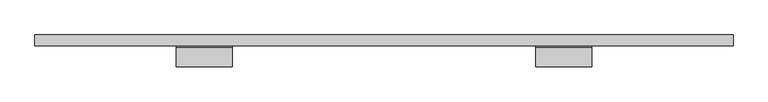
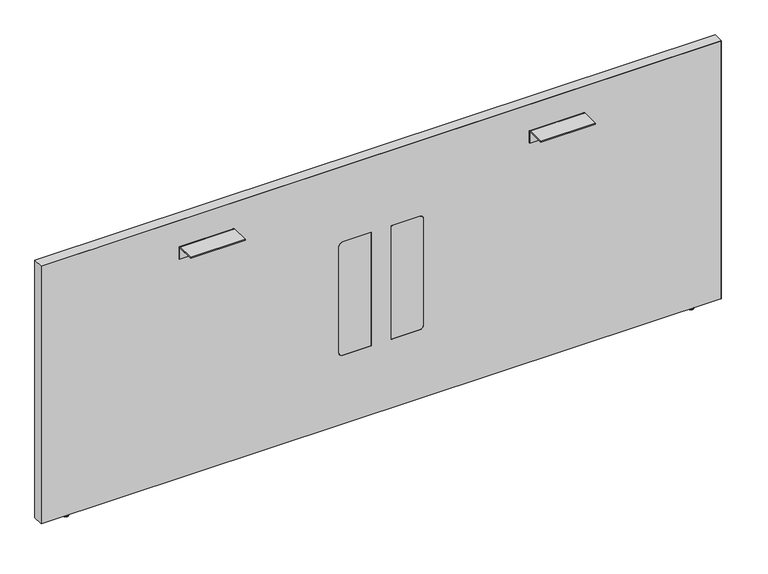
"""IFC4 building model written with IfcOpenShell, lengths in millimetres: furniture geometry, Steelcase - Answer Solution - Boundary Screen - Straight - Spanning : 30H x 75W."""

from ifc_helpers import new_model, si_unit, point, frame, frame_2d, origin, place, context, project, spatial, polyline, circle_curve, ellipse_curve, trimmed, segment, composite_curve, outline, extrude, source, transform, mapped, element, save
from ifc_brep_helpers import plane_surface, cylinder_surface, revolved_surface, advanced_brep


def furniture_ce9390e5(model_context):
    return source(origin(), model_context, "Body", "SolidModel", [
        advanced_brep(
        [(-645.4902705, -14.8449166, 9.9059849), (-645.4902705, -5.9309607, 9.9059849), (-645.4902705, -23.7588726, 9.9059849), (-645.4902705, -5.9309607, 2.9673238), (-645.4902705, -23.7588726, 2.9673238), (-645.4902705, -6.8982978, 2.9673238), (-645.4902705, -22.7915354, 2.9673238), (-645.4902705, -6.8982978, 1.6569081), (-645.4902705, -22.7915354, 1.6569081), (-645.4902705, -8.5552059, 0.0), (-645.4902705, -21.1346274, 0.0), (-645.4902705, -14.8449166, 0.0)],
        [
            (0, 1),
            (1, 2, circle_curve(frame((-645.4902705, -14.8449166, 9.9059849), z_axis=(0.0, 0.0, 1.0), x_axis=(0.0, 1.0, 0.0)), 8.913956)),
            (2, 0),
            (2, 1, circle_curve(frame((-645.4902705, -14.8449166, 9.9059849), z_axis=(0.0, 0.0, 1.0), x_axis=(0.0, 1.0, 0.0)), 8.913956)),
            (1, 3),
            (3, 4, circle_curve(frame((-645.4902705, -14.8449166, 2.9673238), z_axis=(0.0, 0.0, 1.0), x_axis=(0.0, 1.0, 0.0)), 8.913956)),
            (4, 2),
            (4, 3, circle_curve(frame((-645.4902705, -14.8449166, 2.9673238), z_axis=(0.0, 0.0, 1.0), x_axis=(0.0, 1.0, 0.0)), 8.913956)),
            (3, 5),
            (5, 6, circle_curve(frame((-645.4902705, -14.8449166, 2.9673238), z_axis=(0.0, 0.0, 1.0), x_axis=(0.0, 1.0, 0.0)), 7.9466188)),
            (6, 4),
            (6, 5, circle_curve(frame((-645.4902705, -14.8449166, 2.9673238), z_axis=(0.0, 0.0, 1.0), x_axis=(0.0, 1.0, 0.0)), 7.9466188)),
            (5, 7),
            (7, 8, circle_curve(frame((-645.4902705, -14.8449166, 1.6569081), z_axis=(0.0, 0.0, 1.0), x_axis=(0.0, 1.0, 0.0)), 7.9466188)),
            (8, 6),
            (8, 7, circle_curve(frame((-645.4902705, -14.8449166, 1.6569081), z_axis=(0.0, 0.0, 1.0), x_axis=(0.0, 1.0, 0.0)), 7.9466188)),
            (7, 9, circle_curve(frame((-645.4902705, -8.5552059, 1.6569081), z_axis=(-1.0, 0.0, 0.0), x_axis=(0.0, 1.0, 0.0)), 1.6569081)),
            (9, 10, circle_curve(frame((-645.4902705, -14.8449166, 0.0), z_axis=(0.0, 0.0, 1.0), x_axis=(0.0, 1.0, 0.0)), 6.2897107)),
            (10, 8, circle_curve(frame((-645.4902705, -21.1346274, 1.6569081), z_axis=(-1.0, 0.0, 0.0), x_axis=(0.0, -1.0, 0.0)), 1.6569081)),
            (10, 9, circle_curve(frame((-645.4902705, -14.8449166, 0.0), z_axis=(0.0, 0.0, 1.0), x_axis=(0.0, 1.0, 0.0)), 6.2897107)),
            (9, 11),
            (11, 10),
        ],
        [
            plane_surface(frame((-645.4902705, -14.8449166, 9.9059849), z_axis=(0.0, 0.0, 1.0), x_axis=(0.0, 1.0, 0.0))),
            cylinder_surface(frame((-645.4902705, -14.8449166, 9.9059849), z_axis=(0.0, 0.0, 1.0), x_axis=(0.0, 1.0, 0.0)), 8.913956),
            plane_surface(frame((-645.4902705, -14.8449166, 2.9673238), z_axis=(0.0, 0.0, -1.0), x_axis=(0.0, 1.0, 0.0))),
            cylinder_surface(frame((-645.4902705, -14.8449166, 9.9059849), z_axis=(0.0, 0.0, 1.0), x_axis=(0.0, 1.0, 0.0)), 7.9466188),
            revolved_surface(trimmed(ellipse_curve(frame((-645.4902705, -8.5552059, 1.6569081), z_axis=(1.0, 0.0, 0.0), x_axis=(0.0, 1.0, 0.0)), 1.6569081, 1.6569081), [point((-645.4902705, -8.5552059, 0.0))], [point((-645.4902705, -6.8982978, 1.6569081))], True, "CARTESIAN"), (-645.4902705, -14.8449166, 9.9059849), (0.0, 0.0, 1.0)),
            plane_surface(frame((-645.4902705, -14.8449166, 0.0), z_axis=(0.0, 0.0, -1.0), x_axis=(0.0, 1.0, 0.0))),
        ],
        [
            (0, [[1, 2, 3]]),
            (0, [[-3, 4, -1]]),
            (1, [[-2, 5, 6, 7]]),
            (1, [[-4, -7, 8, -5]]),
            (2, [[-6, 9, 10, 11]]),
            (2, [[-8, -11, 12, -9]]),
            (3, [[-10, 13, 14, 15]]),
            (3, [[-12, -15, 16, -13]]),
            (4, [[-14, 17, 18, 19]]),
            (4, [[-16, -19, 20, -17]]),
            (5, [[-18, 21, 22]]),
            (5, [[-20, -22, -21]]),
        ],
    ),
        extrude(outline(composite_curve([segment(polyline([(-86.8398151, 696.4680019), (-86.8398151, 698.5), (-34.9450855, 698.5)]), True, "CONTINUOUS"), segment(trimmed(circle_curve(frame_2d((-34.9450855, 693.2447477)), 5.2552523), [point((-34.9450855, 698.5))], [point((-29.6898332, 693.2447477))], False, "CARTESIAN"), True, "CONTINUOUS"), segment(polyline([(-29.6898332, 693.2447477), (-29.6898332, 660.4), (-31.7218162, 660.4), (-31.7218162, 693.0058743)]), True, "CONTINUOUS"), segment(trimmed(circle_curve(frame_2d((-35.1839438, 693.0058743)), 3.4621276), [point((-31.7218162, 693.0058743))], [point((-35.1839438, 696.4680019))], True, "CARTESIAN"), True, "CONTINUOUS"), segment(polyline([(-35.1839438, 696.4680019), (-86.8398151, 696.4680019)]), True, "CONTINUOUS")], self_intersect=False)), frame((644.0282189, 0.0, 0.0), z_axis=(1.0, 0.0, 0.0), x_axis=(0.0, 1.0, 0.0)), (0.0, 0.0, 1.0), 152.4000969),
        extrude(outline(composite_curve([segment(polyline([(-86.8398151, 696.4680019), (-86.8398151, 698.5), (-34.9450855, 698.5)]), True, "CONTINUOUS"), segment(trimmed(circle_curve(frame_2d((-34.9450855, 693.2447477)), 5.2552523), [point((-34.9450855, 698.5))], [point((-29.6898332, 693.2447477))], False, "CARTESIAN"), True, "CONTINUOUS"), segment(polyline([(-29.6898332, 693.2447477), (-29.6898332, 660.4), (-31.7218162, 660.4), (-31.7218162, 693.0058743)]), True, "CONTINUOUS"), segment(trimmed(circle_curve(frame_2d((-35.1839438, 693.0058743)), 3.4621276), [point((-31.7218162, 693.0058743))], [point((-35.1839438, 696.4680019))], True, "CARTESIAN"), True, "CONTINUOUS"), segment(polyline([(-35.1839438, 696.4680019), (-86.8398151, 696.4680019)]), True, "CONTINUOUS")], self_intersect=False)), frame((-336.7884581, 0.0, 0.0), z_axis=(1.0, 0.0, 0.0), x_axis=(0.0, 1.0, 0.0)), (0.0, 0.0, 1.0), 152.4000969),
        advanced_brep(
        [(1105.1286488, -23.7588726, 9.9059849), (1105.1286488, -5.9309607, 9.9059849), (1105.1286488, -14.8449166, 9.9059849), (1105.1286488, -23.7588726, 2.9673238), (1105.1286488, -5.9309607, 2.9673238), (1105.1286488, -22.7915354, 2.9673238), (1105.1286488, -6.8982978, 2.9673238), (1105.1286488, -22.7915354, 1.6569081), (1105.1286488, -6.8982978, 1.6569081), (1105.1286488, -21.1346274, 0.0), (1105.1286488, -8.5552059, 0.0), (1105.1286488, -14.8449166, 0.0)],
        [
            (0, 1, circle_curve(frame((1105.1286488, -14.8449166, 9.9059849), z_axis=(0.0, 0.0, 1.0), x_axis=(0.0, 1.0, 0.0)), 8.913956)),
            (1, 2),
            (2, 0),
            (1, 0, circle_curve(frame((1105.1286488, -14.8449166, 9.9059849), z_axis=(0.0, 0.0, 1.0), x_axis=(0.0, 1.0, 0.0)), 8.913956)),
            (3, 4, circle_curve(frame((1105.1286488, -14.8449166, 2.9673238), z_axis=(0.0, 0.0, 1.0), x_axis=(0.0, 1.0, 0.0)), 8.913956)),
            (4, 1),
            (0, 3),
            (4, 3, circle_curve(frame((1105.1286488, -14.8449166, 2.9673238), z_axis=(0.0, 0.0, 1.0), x_axis=(0.0, 1.0, 0.0)), 8.913956)),
            (5, 6, circle_curve(frame((1105.1286488, -14.8449166, 2.9673238), z_axis=(0.0, 0.0, 1.0), x_axis=(0.0, 1.0, 0.0)), 7.9466188)),
            (6, 4),
            (3, 5),
            (6, 5, circle_curve(frame((1105.1286488, -14.8449166, 2.9673238), z_axis=(0.0, 0.0, 1.0), x_axis=(0.0, 1.0, 0.0)), 7.9466188)),
            (7, 8, circle_curve(frame((1105.1286488, -14.8449166, 1.6569081), z_axis=(0.0, 0.0, 1.0), x_axis=(0.0, 1.0, 0.0)), 7.9466188)),
            (8, 6),
            (5, 7),
            (8, 7, circle_curve(frame((1105.1286488, -14.8449166, 1.6569081), z_axis=(0.0, 0.0, 1.0), x_axis=(0.0, 1.0, 0.0)), 7.9466188)),
            (9, 10, circle_curve(frame((1105.1286488, -14.8449166, 0.0), z_axis=(0.0, 0.0, 1.0), x_axis=(0.0, 1.0, 0.0)), 6.2897107)),
            (10, 8, circle_curve(frame((1105.1286488, -8.5552059, 1.6569081), z_axis=(1.0, 0.0, 0.0), x_axis=(0.0, 1.0, 0.0)), 1.6569081)),
            (7, 9, circle_curve(frame((1105.1286488, -21.1346274, 1.6569081), z_axis=(1.0, 0.0, 0.0), x_axis=(0.0, -1.0, 0.0)), 1.6569081)),
            (10, 9, circle_curve(frame((1105.1286488, -14.8449166, 0.0), z_axis=(0.0, 0.0, 1.0), x_axis=(0.0, 1.0, 0.0)), 6.2897107)),
            (11, 10),
            (9, 11),
        ],
        [
            plane_surface(frame((1105.1286488, -14.8449166, 9.9059849), z_axis=(0.0, 0.0, 1.0), x_axis=(0.0, 1.0, 0.0))),
            cylinder_surface(frame((1105.1286488, -14.8449166, 9.9059849), z_axis=(0.0, 0.0, -1.0), x_axis=(0.0, 1.0, 0.0)), 8.913956),
            plane_surface(frame((1105.1286488, -14.8449166, 2.9673238), z_axis=(0.0, 0.0, -1.0), x_axis=(0.0, 1.0, 0.0))),
            cylinder_surface(frame((1105.1286488, -14.8449166, 9.9059849), z_axis=(0.0, 0.0, -1.0), x_axis=(0.0, 1.0, 0.0)), 7.9466188),
            revolved_surface(trimmed(ellipse_curve(frame((1105.1286488, -8.5552059, 1.6569081), z_axis=(-1.0, 0.0, 0.0), x_axis=(0.0, 1.0, 0.0)), 1.6569081, 1.6569081), [point((1105.1286488, -6.8982978, 1.6569081))], [point((1105.1286488, -8.5552059, 0.0))], True, "CARTESIAN"), (1105.1286488, -14.8449166, 9.9059849), (0.0, 0.0, -1.0)),
            plane_surface(frame((1105.1286488, -14.8449166, 0.0), z_axis=(0.0, 0.0, -1.0), x_axis=(0.0, 1.0, 0.0))),
        ],
        [
            (0, [[1, 2, 3]]),
            (0, [[4, -3, -2]]),
            (1, [[5, 6, -1, 7]]),
            (1, [[8, -7, -4, -6]]),
            (2, [[9, 10, -5, 11]]),
            (2, [[12, -11, -8, -10]]),
            (3, [[13, 14, -9, 15]]),
            (3, [[16, -15, -12, -14]]),
            (4, [[17, 18, -13, 19]]),
            (4, [[20, -19, -16, -18]]),
            (5, [[21, -17, 22]]),
            (5, [[-22, -20, -21]]),
        ],
    ),
        advanced_brep(
        [(1181.2780168, 0.0, 771.942118), (1181.2780168, 0.0, 9.9059849), (-721.6902221, 0.0, 9.9059849), (-721.6902221, 0.0, 771.942118), (1181.2780168, -29.6898332, 771.942118), (-721.6902221, -29.6898332, 771.942118), (-721.6902221, -29.6898332, 9.9059849), (1181.2780168, -29.6898332, 9.9059849), (337.7883813, -29.6898332, 549.6162029), (347.9483813, -29.6898332, 539.4562029), (347.9483813, -29.6898332, 223.9362137), (337.7883813, -29.6898332, 213.7762137), (258.1344836, -29.6898332, 213.7762137), (258.1344836, -29.6898332, 549.6162029), (121.849997, -29.6898332, 549.6162029), (201.5038947, -29.6898332, 549.6162029), (201.5038947, -29.6898332, 213.7762137), (121.849997, -29.6898332, 213.7762137), (111.689997, -29.6898332, 223.9362137), (111.689997, -29.6898332, 539.4562029), (258.1344836, -29.0550397, 549.6162029), (337.7883813, -29.0550397, 549.6162029), (258.1344836, -29.0550397, 213.7762137), (337.7883813, -29.0550397, 213.7762137), (347.9483813, -29.0550397, 223.9362137), (347.9483813, -29.0550397, 539.4562029), (121.849997, -29.0550397, 549.6162029), (111.689997, -29.0550397, 539.4562029), (111.689997, -29.0550397, 223.9362137), (121.849997, -29.0550397, 213.7762137), (201.5038947, -29.0550397, 213.7762137), (201.5038947, -29.0550397, 549.6162029)],
        [
            (0, 1),
            (1, 2),
            (2, 3),
            (3, 0),
            (4, 5),
            (5, 6),
            (6, 7),
            (7, 4),
            (8, 9, circle_curve(frame((337.7883813, -29.6898332, 539.4562029), z_axis=(0.0, 1.0, 0.0), x_axis=(0.0, 0.0, 1.0)), 10.16)),
            (9, 10),
            (10, 11, circle_curve(frame((337.7883813, -29.6898332, 223.9362137), z_axis=(0.0, 1.0, 0.0), x_axis=(0.0, 0.0, 1.0)), 10.16)),
            (11, 12),
            (12, 13),
            (13, 8),
            (14, 15),
            (15, 16),
            (16, 17),
            (17, 18, circle_curve(frame((121.849997, -29.6898332, 223.9362137), z_axis=(0.0, 1.0, 0.0), x_axis=(0.0, 0.0, 1.0)), 10.16)),
            (18, 19),
            (19, 14, circle_curve(frame((121.849997, -29.6898332, 539.4562029), z_axis=(0.0, 1.0, 0.0), x_axis=(0.0, 0.0, 1.0)), 10.16)),
            (0, 4),
            (7, 1),
            (6, 2),
            (5, 3),
            (13, 20),
            (20, 21),
            (21, 8),
            (12, 22),
            (22, 20),
            (11, 23),
            (23, 22),
            (10, 24),
            (24, 23, circle_curve(frame((337.7883813, -29.0550397, 223.9362137), z_axis=(0.0, 1.0, 0.0), x_axis=(0.0, 0.0, 1.0)), 10.16)),
            (9, 25),
            (25, 24),
            (21, 25, circle_curve(frame((337.7883813, -29.0550397, 539.4562029), z_axis=(0.0, 1.0, 0.0), x_axis=(0.0, 0.0, 1.0)), 10.16)),
            (26, 27, circle_curve(frame((121.849997, -29.0550397, 539.4562029), z_axis=(0.0, -1.0, 0.0), x_axis=(0.0, 0.0, 1.0)), 10.16)),
            (27, 28),
            (28, 29, circle_curve(frame((121.849997, -29.0550397, 223.9362137), z_axis=(0.0, -1.0, 0.0), x_axis=(0.0, 0.0, 1.0)), 10.16)),
            (29, 30),
            (30, 31),
            (31, 26),
            (19, 27),
            (26, 14),
            (18, 28),
            (17, 29),
            (16, 30),
            (15, 31),
        ],
        [
            plane_surface(frame((1181.2780168, 0.0, 771.942118), z_axis=(0.0, 1.0, 0.0), x_axis=(0.0, 0.0, -1.0))),
            plane_surface(frame((1181.2780168, -29.6898332, 771.942118), z_axis=(0.0, -1.0, 0.0), x_axis=(0.0, 0.0, 1.0))),
            plane_surface(frame((1181.2780168, 0.0, 771.942118), z_axis=(1.0, 0.0, 0.0), x_axis=(0.0, -1.0, 0.0))),
            plane_surface(frame((1181.2780168, 0.0, 9.9059849), z_axis=(0.0, 0.0, -1.0), x_axis=(0.0, -1.0, 0.0))),
            plane_surface(frame((-721.6902221, 0.0, 9.9059849), z_axis=(-1.0, 0.0, 0.0), x_axis=(0.0, -1.0, 0.0))),
            plane_surface(frame((-721.6902221, 0.0, 771.942118), z_axis=(0.0, 0.0, 1.0), x_axis=(0.0, -1.0, 0.0))),
            plane_surface(frame((337.7883813, 0.0, 549.6162029), z_axis=(0.0, 0.0, -1.0), x_axis=(0.0, -1.0, 0.0))),
            plane_surface(frame((258.1344836, 0.0, 549.6162029), z_axis=(1.0, 0.0, 0.0), x_axis=(0.0, -1.0, 0.0))),
            plane_surface(frame((258.1344836, 0.0, 213.7762137), z_axis=(0.0, 0.0, 1.0), x_axis=(0.0, -1.0, 0.0))),
            revolved_surface(polyline([(337.7883813, -29.6898332, 234.0962137), (337.7883813, -29.0550397, 234.0962137)]), (337.7883813, -29.6898332, 223.9362137), (0.0, -1.0, 0.0)),
            plane_surface(frame((347.9483813, 0.0, 223.9362137), z_axis=(-1.0, 0.0, 0.0), x_axis=(0.0, -1.0, 0.0))),
            revolved_surface(polyline([(337.7883813, -29.6898332, 549.6162029), (337.7883813, -29.0550397, 549.6162029)]), (337.7883813, -29.6898332, 539.4562029), (0.0, -1.0, 0.0)),
            plane_surface(frame((347.9483813, -29.0550397, 549.6162029), z_axis=(0.0, -1.0, 0.0), x_axis=(0.0, 0.0, 1.0))),
            revolved_surface(polyline([(121.849997, -29.6898332, 549.6162029), (121.849997, -29.0550397, 549.6162029)]), (121.849997, -29.6898332, 539.4562029), (0.0, -1.0, 0.0)),
            plane_surface(frame((111.689997, 0.0, 539.4562029), z_axis=(1.0, 0.0, 0.0), x_axis=(0.0, -1.0, 0.0))),
            revolved_surface(polyline([(121.849997, -29.6898332, 234.0962137), (121.849997, -29.0550397, 234.0962137)]), (121.849997, -29.6898332, 223.9362137), (0.0, -1.0, 0.0)),
            plane_surface(frame((121.849997, 0.0, 213.7762137), z_axis=(0.0, 0.0, 1.0), x_axis=(0.0, -1.0, 0.0))),
            plane_surface(frame((201.5038947, 0.0, 213.7762137), z_axis=(-1.0, 0.0, 0.0), x_axis=(0.0, -1.0, 0.0))),
            plane_surface(frame((201.5038947, 0.0, 549.6162029), z_axis=(0.0, 0.0, -1.0), x_axis=(0.0, -1.0, 0.0))),
        ],
        [
            (0, [[1, 2, 3, 4]]),
            (1, [[5, 6, 7, 8], [9, 10, 11, 12, 13, 14], [15, 16, 17, 18, 19, 20]]),
            (2, [[-1, 21, -8, 22]]),
            (3, [[-2, -22, -7, 23]]),
            (4, [[-3, -23, -6, 24]]),
            (5, [[-4, -24, -5, -21]]),
            (6, [[-14, 25, 26, 27]]),
            (7, [[-13, 28, 29, -25]]),
            (8, [[-12, 30, 31, -28]]),
            (9, [[-11, 32, 33, -30]]),
            (10, [[-10, 34, 35, -32]]),
            (11, [[-9, -27, 36, -34]]),
            (12, [[-26, -29, -31, -33, -35, -36]]),
            (12, [[37, 38, 39, 40, 41, 42]]),
            (13, [[-20, 43, -37, 44]]),
            (14, [[-19, 45, -38, -43]]),
            (15, [[-18, 46, -39, -45]]),
            (16, [[-17, 47, -40, -46]]),
            (17, [[-16, 48, -41, -47]]),
            (18, [[-15, -44, -42, -48]]),
        ],
    ),
        extrude(outline(composite_curve([segment(polyline([(549.6162029, 337.7883813), (549.6162029, 258.1344836), (213.7762137, 258.1344836), (213.7762137, 337.7883813)]), True, "CONTINUOUS"), segment(trimmed(circle_curve(frame_2d((223.9362137, 337.7883813)), 10.16), [point((213.7762137, 337.7883813))], [point((223.9362137, 347.9483813))], False, "CARTESIAN"), True, "CONTINUOUS"), segment(polyline([(223.9362137, 347.9483813), (539.4562029, 347.9483813)]), True, "CONTINUOUS"), segment(trimmed(circle_curve(frame_2d((539.4562029, 337.7883813)), 10.16), [point((539.4562029, 347.9483813))], [point((549.6162029, 337.7883813))], False, "CARTESIAN"), True, "CONTINUOUS")], self_intersect=False)), frame((0.0, -29.6898332, 0.0), z_axis=(0.0, 1.0, 0.0), x_axis=(0.0, 0.0, 1.0)), (0.0, 0.0, 1.0), 0.6347935),
        extrude(outline(composite_curve([segment(trimmed(circle_curve(frame_2d((539.4562029, 121.849997)), 10.16), [point((549.6162029, 121.849997))], [point((539.4562029, 111.689997))], False, "CARTESIAN"), True, "CONTINUOUS"), segment(polyline([(539.4562029, 111.689997), (223.9362137, 111.689997)]), True, "CONTINUOUS"), segment(trimmed(circle_curve(frame_2d((223.9362137, 121.849997)), 10.16), [point((223.9362137, 111.689997))], [point((213.7762137, 121.849997))], False, "CARTESIAN"), True, "CONTINUOUS"), segment(polyline([(213.7762137, 121.849997), (213.7762137, 201.5038947), (549.6162029, 201.5038947), (549.6162029, 121.849997)]), True, "CONTINUOUS")], self_intersect=False)), frame((0.0, -29.6898332, 0.0), z_axis=(0.0, 1.0, 0.0), x_axis=(0.0, 0.0, 1.0)), (0.0, 0.0, 1.0), 0.6347935),
        extrude(outline(polyline([(772.922, 1182.3191891), (772.922, -722.6808109), (9.9059849, -722.6808109), (9.9059849, -721.6902221), (771.942118, -721.6902221), (771.942118, 1181.2780168), (9.9059849, 1181.2780168), (9.9059849, 1182.3191891), (772.922, 1182.3191891)])), frame((0.0, -29.6898332, 0.0), z_axis=(0.0, 1.0, 0.0), x_axis=(0.0, 0.0, 1.0)), (0.0, 0.0, 1.0), 29.6898332),
    ])


if __name__ == "__main__":
    model = new_model("IFC4")
    model_context = context("Model", 3, world=origin())
    ifc_project = project(units=[si_unit("LENGTHUNIT", "METRE", prefix="MILLI")], contexts=[model_context])
    site = spatial("IfcSite", under=ifc_project)
    building = spatial("IfcBuilding", under=site)
    placement = place(None, origin())
    furniture_shape = furniture_ce9390e5(model_context)
    element("IfcFurniture", 1, ObjectType="Steelcase - Answer Solution - Boundary Screen - Straight - Spanning : 30H x 75W", at=placement, inside=building, context=model_context, shape_type="MappedRepresentation", body=[
        mapped(furniture_shape, transform((0.0, 0.0, 0.0), x_axis=(1.0, 0.0, 0.0), y_axis=(0.0, 1.0, 0.0), z_axis=(0.0, 0.0, 1.0))),
    ])
    save(model, "model.ifc")
